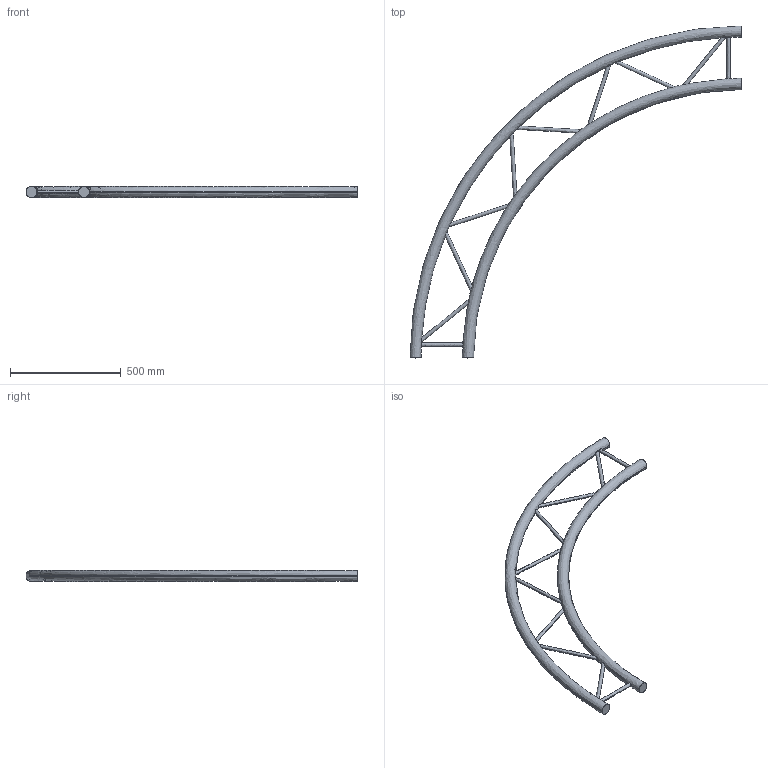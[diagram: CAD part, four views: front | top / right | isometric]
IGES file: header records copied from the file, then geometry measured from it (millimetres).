
Start section: SolidWorks IGES file using analytic representation for surfaces
Global section: file name: K:\BIBLIO\asd_biblio\EX290\Cercles\EXC290H\EXC29300H\EXC29300H.IGS; native system: SolidWorks 2009; preprocessor: SolidWorks 2009; author: des3; date: 091026.103426; units: millimetre
Bounding box: 1500 x 1500 x 50 mm (x, y, z)
Surface area: 801052.7 mm2 (no closed solid volume)
Topology: 0 solids, 0 shells, 28 faces, 1849 edges, 1849 vertices
Faces by surface type: revolution 20, bspline 8
